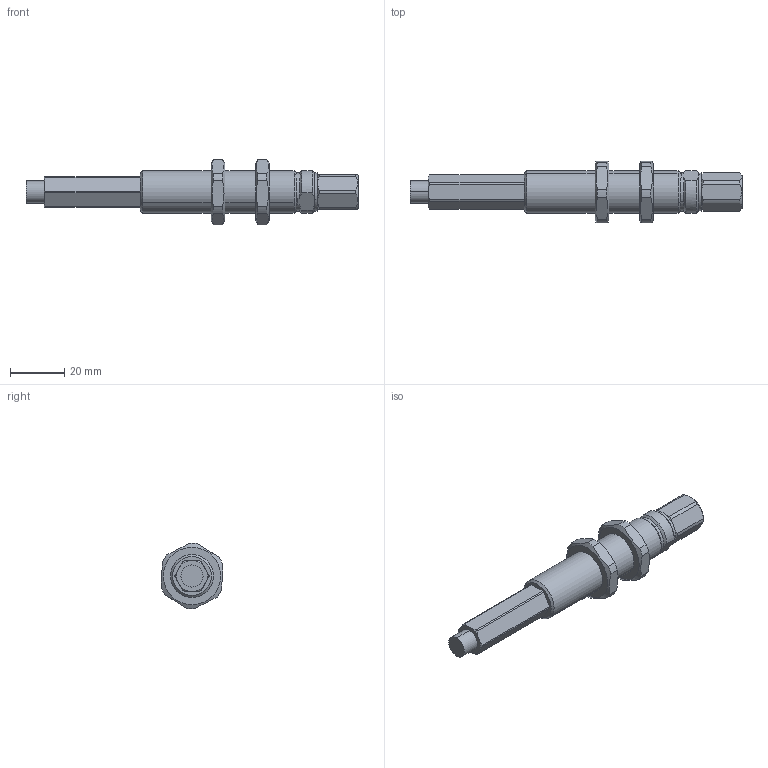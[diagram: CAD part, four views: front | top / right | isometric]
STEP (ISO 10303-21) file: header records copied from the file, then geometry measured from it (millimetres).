
FILE_DESCRIPTION (( 'STEP AP203' ), '1' );
FILE_NAME ('LC18X35-NR-PUBLIC.STEP', '2012-03-15T19:38:23', ( '' ), ( '' ), 'SwSTEP 2.0', 'SolidWorks 2012', '' );
FILE_SCHEMA (( 'CONFIG_CONTROL_DESIGN' ));
Length unit declared in the file: inch
Products named in the file (1): LC18X35-NR-PUBLIC
Bounding box: 121.92 x 22.66 x 24.13 mm (x, y, z)
Volume: 19999.2 mm3; surface area: 7104.1 mm2
Topology: 1 solids, 1 shells, 109 faces, 288 edges, 189 vertices
Faces by surface type: cylinder 40, plane 40, cone 29
Entity records: 3816 total; most frequent: CARTESIAN_POINT 1057, ORIENTED_EDGE 576, DIRECTION 553, EDGE_CURVE 288, AXIS2_PLACEMENT_3D 223, VERTEX_POINT 189, EDGE_LOOP 117, CIRCLE 113
